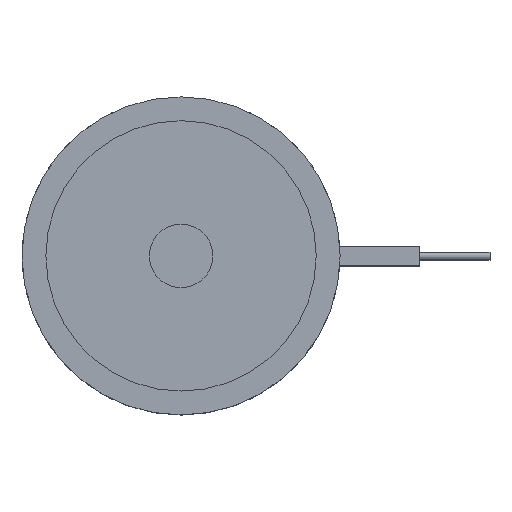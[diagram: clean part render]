
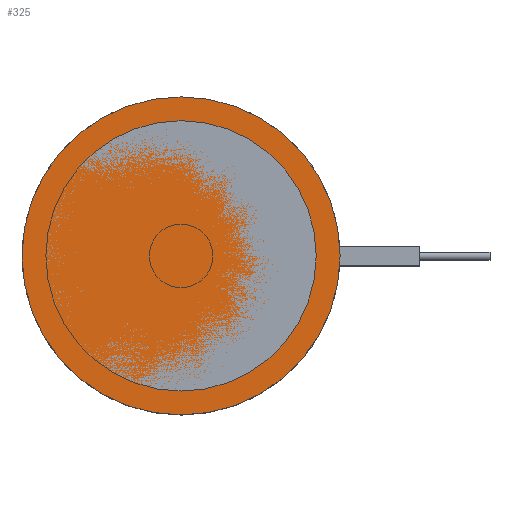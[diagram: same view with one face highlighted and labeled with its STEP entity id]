
A CAD part, top view. The second image highlights one B-rep face of the part: STEP entity #325.
In plain terms, the highlighted planar face has unit normal (0, 0, 1).
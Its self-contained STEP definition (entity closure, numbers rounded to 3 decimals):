
#225=PLANE('',#1100);
#261=FACE_OUTER_BOUND('',#495,.T.);
#325=ADVANCED_FACE('',(#261),#225,.F.);
#495=EDGE_LOOP('',(#627));
#627=ORIENTED_EDGE('',*,*,#912,.F.);
#820=VERTEX_POINT('',#1589);
#912=EDGE_CURVE('',#820,#820,#1011,.T.);
#1011=CIRCLE('',#1099,20.);
#1099=AXIS2_PLACEMENT_3D('',#1588,#1291,#1292);
#1100=AXIS2_PLACEMENT_3D('',#1590,#1293,#1294);
#1291=DIRECTION('',(0.,0.,-1.));
#1292=DIRECTION('',(-1.,0.,0.));
#1293=DIRECTION('',(0.,0.,-1.));
#1294=DIRECTION('',(-1.,0.,0.));
#1588=CARTESIAN_POINT('',(0.,0.,0.));
#1589=CARTESIAN_POINT('',(-20.,0.,0.));
#1590=CARTESIAN_POINT('',(0.,0.,0.));
